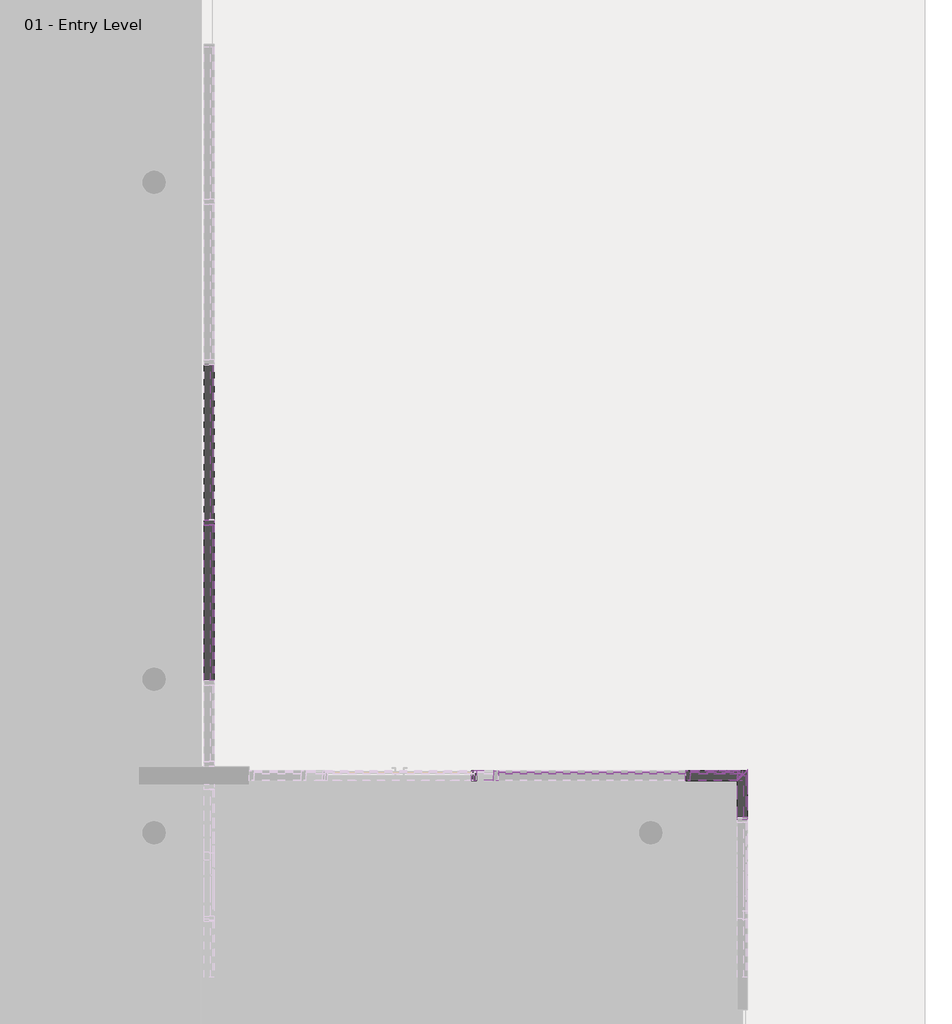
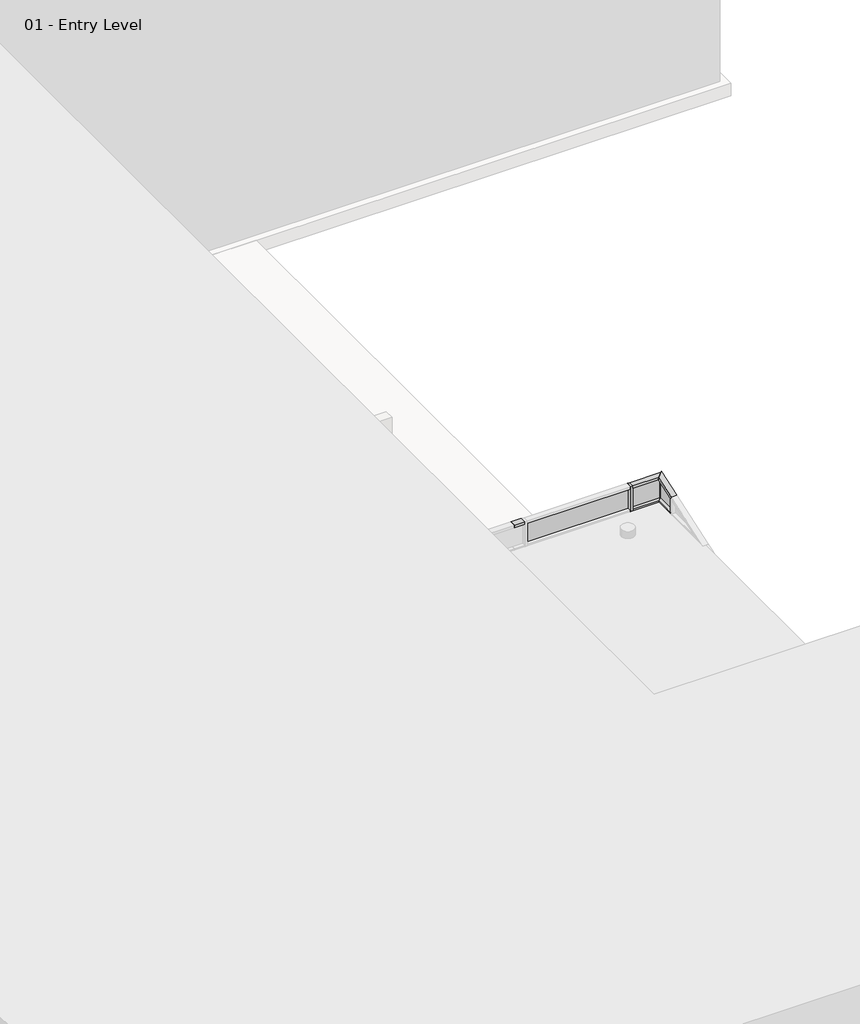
# One storey, part 17 of 34: 71 members, 54 plates.
"""IFC4 building model written with IfcOpenShell, lengths in millimetres."""

from ifc_helpers import new_model, si_unit, origin, place, context, project, spatial, transform, mapped, element, save
from components import member_2b49869a, member_391b434c, member_9e90ae50, member_6e77e263, member_b2bde9e6, member_b5354135, member_1e5b0a81, member_55448455, member_0dd9e943, member_29c8c3b8, member_f6b3c571, member_bb554449, member_5d67b9fc, member_2eb7018d, member_3f1e2ae8, member_80bb9b3a, member_75d1e245, member_83c59054, system_panel_glazed_1b9d6098, system_panel_glazed_70da479d, system_panel_glazed_1068a10c, system_panel_glazed_a178916c, system_panel_glazed_ee7bb25c, system_panel_glazed_b5016a42, system_panel_glazed_300f1d59, system_panel_glazed_afefc162, system_panel_glazed_fbdf944e, system_panel_glazed_78103c7b, system_panel_glazed_75890ef7

model = new_model("IFC4")

# Units and contexts
model_context = context("Model", 3, world=origin())
ifc_project = project(units=[si_unit("LENGTHUNIT", "METRE", prefix="MILLI")], contexts=[model_context])

# Site, building, storey
site = spatial("IfcSite", under=ifc_project)
building = spatial("IfcBuilding", under=site)
storey = spatial("IfcBuildingStorey", under=building, Name="01 - Entry Level", Elevation=0.0)

# Members
placement = place(None, origin())
member_shape = member_2b49869a(model_context)
element("IfcMember", 1, ObjectType="Rectangular Mullion : 2.5\" x 5\" rectangular", at=placement, inside=storey, context=model_context, shape_type="MappedRepresentation", body=[
    mapped(member_shape, transform((17184.0207476, 25752.35, 9753.6), x_axis=(0.0, 1.0, 0.0), y_axis=(1.0, 0.0, 0.0), z_axis=(0.0, 0.0, -1.0))),
])
member_2_shape = member_391b434c(model_context)
element("IfcMember", 2, ObjectType="Rectangular Mullion : 2.5\" x 5\" rectangular", at=placement, inside=storey, context=model_context, shape_type="MappedRepresentation", body=[
    mapped(member_2_shape, transform((17184.0207476, 25720.6, 10972.8), x_axis=(0.0, 0.0, 1.0), y_axis=(1.0, 0.0, 0.0), z_axis=(0.0, 1.0, 0.0))),
])
element("IfcMember", 3, ObjectType="Rectangular Mullion : 2.5\" x 5\" rectangular", at=placement, inside=storey, context=model_context, shape_type="MappedRepresentation", body=[
    mapped(member_2_shape, transform((17184.0207476, 27752.6, 10972.8), x_axis=(0.0, 0.0, 1.0), y_axis=(1.0, 0.0, 0.0), z_axis=(0.0, 1.0, 0.0))),
])
element("IfcMember", 4, ObjectType="Rectangular Mullion : 2.5\" x 5\" rectangular", at=placement, inside=storey, context=model_context, shape_type="MappedRepresentation", body=[
    mapped(member_2_shape, transform((17184.0207476, 25784.1, 0.0), x_axis=(0.0, 0.0, -1.0), y_axis=(1.0, 0.0, 0.0), z_axis=(0.0, -1.0, 0.0))),
])
element("IfcMember", 5, ObjectType="Rectangular Mullion : 2.5\" x 5\" rectangular", at=placement, inside=storey, context=model_context, shape_type="MappedRepresentation", body=[
    mapped(member_2_shape, transform((17184.0207476, 27816.1, 0.0), x_axis=(0.0, 0.0, -1.0), y_axis=(1.0, 0.0, 0.0), z_axis=(0.0, -1.0, 0.0))),
])
member_3_shape = member_9e90ae50(model_context)
element("IfcMember", 6, ObjectType="Rectangular Mullion : 2.5\" x 5\" rectangular", at=placement, inside=storey, context=model_context, shape_type="MappedRepresentation", body=[
    mapped(member_3_shape, transform((17184.0207476, 25720.6, 1219.2), x_axis=(0.0, 0.0, 1.0), y_axis=(1.0, 0.0, 0.0), z_axis=(0.0, 1.0, 0.0))),
])
element("IfcMember", 7, ObjectType="Rectangular Mullion : 2.5\" x 5\" rectangular", at=placement, inside=storey, context=model_context, shape_type="MappedRepresentation", body=[
    mapped(member_3_shape, transform((17184.0207476, 27752.6, 1219.2), x_axis=(0.0, 0.0, 1.0), y_axis=(1.0, 0.0, 0.0), z_axis=(0.0, 1.0, 0.0))),
])
element("IfcMember", 8, ObjectType="Rectangular Mullion : 2.5\" x 5\" rectangular", at=placement, inside=storey, context=model_context, shape_type="MappedRepresentation", body=[
    mapped(member_3_shape, transform((17184.0207476, 25720.6, 2438.4), x_axis=(0.0, 0.0, 1.0), y_axis=(1.0, 0.0, 0.0), z_axis=(0.0, 1.0, 0.0))),
])
element("IfcMember", 9, ObjectType="Rectangular Mullion : 2.5\" x 5\" rectangular", at=placement, inside=storey, context=model_context, shape_type="MappedRepresentation", body=[
    mapped(member_3_shape, transform((17184.0207476, 27752.6, 2438.4), x_axis=(0.0, 0.0, 1.0), y_axis=(1.0, 0.0, 0.0), z_axis=(0.0, 1.0, 0.0))),
])
element("IfcMember", 10, ObjectType="Rectangular Mullion : 2.5\" x 5\" rectangular", at=placement, inside=storey, context=model_context, shape_type="MappedRepresentation", body=[
    mapped(member_3_shape, transform((17184.0207476, 25720.6, 3657.6), x_axis=(0.0, 0.0, 1.0), y_axis=(1.0, 0.0, 0.0), z_axis=(0.0, 1.0, 0.0))),
])
element("IfcMember", 11, ObjectType="Rectangular Mullion : 2.5\" x 5\" rectangular", at=placement, inside=storey, context=model_context, shape_type="MappedRepresentation", body=[
    mapped(member_3_shape, transform((17184.0207476, 25720.6, 4876.8), x_axis=(0.0, 0.0, 1.0), y_axis=(1.0, 0.0, 0.0), z_axis=(0.0, 1.0, 0.0))),
])
element("IfcMember", 12, ObjectType="Rectangular Mullion : 2.5\" x 5\" rectangular", at=placement, inside=storey, context=model_context, shape_type="MappedRepresentation", body=[
    mapped(member_3_shape, transform((17184.0207476, 25720.6, 6096.0), x_axis=(0.0, 0.0, 1.0), y_axis=(1.0, 0.0, 0.0), z_axis=(0.0, 1.0, 0.0))),
])
element("IfcMember", 13, ObjectType="Rectangular Mullion : 2.5\" x 5\" rectangular", at=placement, inside=storey, context=model_context, shape_type="MappedRepresentation", body=[
    mapped(member_3_shape, transform((17184.0207476, 25720.6, 7315.2), x_axis=(0.0, 0.0, 1.0), y_axis=(1.0, 0.0, 0.0), z_axis=(0.0, 1.0, 0.0))),
])
element("IfcMember", 14, ObjectType="Rectangular Mullion : 2.5\" x 5\" rectangular", at=placement, inside=storey, context=model_context, shape_type="MappedRepresentation", body=[
    mapped(member_3_shape, transform((17184.0207476, 25720.6, 8534.4), x_axis=(0.0, 0.0, 1.0), y_axis=(1.0, 0.0, 0.0), z_axis=(0.0, 1.0, 0.0))),
])
element("IfcMember", 15, ObjectType="Rectangular Mullion : 2.5\" x 5\" rectangular", at=placement, inside=storey, context=model_context, shape_type="MappedRepresentation", body=[
    mapped(member_3_shape, transform((17184.0207476, 25720.6, 9753.6), x_axis=(0.0, 0.0, 1.0), y_axis=(1.0, 0.0, 0.0), z_axis=(0.0, 1.0, 0.0))),
])
element("IfcMember", 16, ObjectType="Rectangular Mullion : 2.5\" x 5\" rectangular", at=placement, inside=storey, context=model_context, shape_type="MappedRepresentation", body=[
    mapped(member_shape, transform((17184.0207476, 25752.35, 0.0), x_axis=(0.0, 1.0, 0.0), y_axis=(1.0, 0.0, 0.0), z_axis=(0.0, 0.0, -1.0))),
])
element("IfcMember", 17, ObjectType="Rectangular Mullion : 2.5\" x 5\" rectangular", at=placement, inside=storey, context=model_context, shape_type="MappedRepresentation", body=[
    mapped(member_shape, transform((17184.0207476, 25752.35, 1219.2), x_axis=(0.0, 1.0, 0.0), y_axis=(1.0, 0.0, 0.0), z_axis=(0.0, 0.0, -1.0))),
])
element("IfcMember", 18, ObjectType="Rectangular Mullion : 2.5\" x 5\" rectangular", at=placement, inside=storey, context=model_context, shape_type="MappedRepresentation", body=[
    mapped(member_shape, transform((17184.0207476, 25752.35, 2438.4), x_axis=(0.0, 1.0, 0.0), y_axis=(1.0, 0.0, 0.0), z_axis=(0.0, 0.0, -1.0))),
])
element("IfcMember", 19, ObjectType="Rectangular Mullion : 2.5\" x 5\" rectangular", at=placement, inside=storey, context=model_context, shape_type="MappedRepresentation", body=[
    mapped(member_shape, transform((17184.0207476, 25752.35, 3657.6), x_axis=(0.0, 1.0, 0.0), y_axis=(1.0, 0.0, 0.0), z_axis=(0.0, 0.0, -1.0))),
])
element("IfcMember", 20, ObjectType="Rectangular Mullion : 2.5\" x 5\" rectangular", at=placement, inside=storey, context=model_context, shape_type="MappedRepresentation", body=[
    mapped(member_shape, transform((17184.0207476, 25752.35, 4876.8), x_axis=(0.0, 1.0, 0.0), y_axis=(1.0, 0.0, 0.0), z_axis=(0.0, 0.0, -1.0))),
])
element("IfcMember", 21, ObjectType="Rectangular Mullion : 2.5\" x 5\" rectangular", at=placement, inside=storey, context=model_context, shape_type="MappedRepresentation", body=[
    mapped(member_shape, transform((17184.0207476, 25752.35, 6096.0), x_axis=(0.0, 1.0, 0.0), y_axis=(1.0, 0.0, 0.0), z_axis=(0.0, 0.0, -1.0))),
])
element("IfcMember", 22, ObjectType="Rectangular Mullion : 2.5\" x 5\" rectangular", at=placement, inside=storey, context=model_context, shape_type="MappedRepresentation", body=[
    mapped(member_shape, transform((17184.0207476, 25752.35, 7315.2), x_axis=(0.0, 1.0, 0.0), y_axis=(1.0, 0.0, 0.0), z_axis=(0.0, 0.0, -1.0))),
])
element("IfcMember", 23, ObjectType="Rectangular Mullion : 2.5\" x 5\" rectangular", at=placement, inside=storey, context=model_context, shape_type="MappedRepresentation", body=[
    mapped(member_shape, transform((17184.0207476, 25752.35, 8534.4), x_axis=(0.0, 1.0, 0.0), y_axis=(1.0, 0.0, 0.0), z_axis=(0.0, 0.0, -1.0))),
])
member_4_shape = member_6e77e263(model_context)
element("IfcMember", 24, ObjectType="Rectangular Mullion : 2.5\" x 5\" rectangular", at=placement, inside=storey, context=model_context, shape_type="MappedRepresentation", body=[
    mapped(member_4_shape, transform((23256.3615197, 22545.6, 0.0), x_axis=(-1.0, 0.0, 0.0), y_axis=(0.0, 1.0, 0.0), z_axis=(0.0, 0.0, -1.0))),
])
element("IfcMember", 25, ObjectType="Rectangular Mullion : 2.5\" x 5\" rectangular", at=placement, inside=storey, context=model_context, shape_type="MappedRepresentation", body=[
    mapped(member_4_shape, transform((23256.3615197, 22545.6, 609.6), x_axis=(-1.0, 0.0, 0.0), y_axis=(0.0, 1.0, 0.0), z_axis=(0.0, 0.0, -1.0))),
])
element("IfcMember", 26, ObjectType="Rectangular Mullion : 2.5\" x 5\" rectangular", at=placement, inside=storey, context=model_context, shape_type="MappedRepresentation", body=[
    mapped(member_4_shape, transform((23256.3615197, 22545.6, 1219.2), x_axis=(-1.0, 0.0, 0.0), y_axis=(0.0, 1.0, 0.0), z_axis=(0.0, 0.0, -1.0))),
])
element("IfcMember", 27, ObjectType="Rectangular Mullion : 2.5\" x 5\" rectangular", at=placement, inside=storey, context=model_context, shape_type="MappedRepresentation", body=[
    mapped(member_4_shape, transform((23256.3615197, 22545.6, 2438.4), x_axis=(-1.0, 0.0, 0.0), y_axis=(0.0, 1.0, 0.0), z_axis=(0.0, 0.0, -1.0))),
])
element("IfcMember", 28, ObjectType="Rectangular Mullion : 2.5\" x 5\" rectangular", at=placement, inside=storey, context=model_context, shape_type="MappedRepresentation", body=[
    mapped(member_4_shape, transform((23256.3615197, 22545.6, 3048.0), x_axis=(-1.0, 0.0, 0.0), y_axis=(0.0, 1.0, 0.0), z_axis=(0.0, 0.0, -1.0))),
])
element("IfcMember", 29, ObjectType="Rectangular Mullion : 2.5\" x 5\" rectangular", at=placement, inside=storey, context=model_context, shape_type="MappedRepresentation", body=[
    mapped(member_4_shape, transform((23256.3615197, 22545.6, 3657.6), x_axis=(-1.0, 0.0, 0.0), y_axis=(0.0, 1.0, 0.0), z_axis=(0.0, 0.0, -1.0))),
])
element("IfcMember", 30, ObjectType="Rectangular Mullion : 2.5\" x 5\" rectangular", at=placement, inside=storey, context=model_context, shape_type="MappedRepresentation", body=[
    mapped(member_4_shape, transform((23256.3615197, 22545.6, 4267.2), x_axis=(-1.0, 0.0, 0.0), y_axis=(0.0, 1.0, 0.0), z_axis=(0.0, 0.0, -1.0))),
])
element("IfcMember", 31, ObjectType="Rectangular Mullion : 2.5\" x 5\" rectangular", at=placement, inside=storey, context=model_context, shape_type="MappedRepresentation", body=[
    mapped(member_4_shape, transform((23256.3615197, 22545.6, 4876.8), x_axis=(-1.0, 0.0, 0.0), y_axis=(0.0, 1.0, 0.0), z_axis=(0.0, 0.0, -1.0))),
])
element("IfcMember", 32, ObjectType="Rectangular Mullion : 2.5\" x 5\" rectangular", at=placement, inside=storey, context=model_context, shape_type="MappedRepresentation", body=[
    mapped(member_4_shape, transform((23256.3615197, 22545.6, 5486.4), x_axis=(-1.0, 0.0, 0.0), y_axis=(0.0, 1.0, 0.0), z_axis=(0.0, 0.0, -1.0))),
])
element("IfcMember", 33, ObjectType="Rectangular Mullion : 2.5\" x 5\" rectangular", at=placement, inside=storey, context=model_context, shape_type="MappedRepresentation", body=[
    mapped(member_4_shape, transform((23256.3615197, 22545.6, 6096.0), x_axis=(-1.0, 0.0, 0.0), y_axis=(0.0, 1.0, 0.0), z_axis=(0.0, 0.0, -1.0))),
])
member_5_shape = member_b2bde9e6(model_context)
element("IfcMember", 34, ObjectType="Rectangular Mullion : 2.5\" x 5\" rectangular", at=placement, inside=storey, context=model_context, shape_type="MappedRepresentation", body=[
    mapped(member_5_shape, transform((23224.6115197, 22545.6, 0.0), x_axis=(0.0, 0.0, -1.0), y_axis=(0.0, 1.0, 0.0), z_axis=(1.0, 0.0, 0.0))),
])
member_6_shape = member_b5354135(model_context)
element("IfcMember", 35, ObjectType="Rectangular Mullion : 2.5\" x 5\" rectangular", at=placement, inside=storey, context=model_context, shape_type="MappedRepresentation", body=[
    mapped(member_6_shape, transform((23288.1115197, 22545.6, 1828.8), x_axis=(0.0, 0.0, 1.0), y_axis=(0.0, 1.0, 0.0), z_axis=(-1.0, 0.0, 0.0))),
])
element("IfcMember", 36, ObjectType="Rectangular Mullion : 2.5\" x 5\" rectangular", at=placement, inside=storey, context=model_context, shape_type="MappedRepresentation", body=[
    mapped(member_4_shape, transform((23256.3615197, 22545.6, 6705.6), x_axis=(-1.0, 0.0, 0.0), y_axis=(0.0, 1.0, 0.0), z_axis=(0.0, 0.0, -1.0))),
])
member_7_shape = member_1e5b0a81(model_context)
element("IfcMember", 37, ObjectType="Rectangular Mullion : 2.5\" x 5\" rectangular", at=placement, inside=storey, context=model_context, shape_type="MappedRepresentation", body=[
    mapped(member_7_shape, transform((23947.0115197, 22545.6, 0.0), x_axis=(0.0, 0.0, -1.0), y_axis=(0.0, 1.0, 0.0), z_axis=(1.0, 0.0, 0.0))),
])
member_8_shape = member_55448455(model_context)
element("IfcMember", 38, ObjectType="Rectangular Mullion : 2.5\" x 5\" rectangular", at=placement, inside=storey, context=model_context, shape_type="MappedRepresentation", body=[
    mapped(member_8_shape, transform((23947.0115197, 22018.55, 0.0), x_axis=(0.0, 0.0, -1.0), y_axis=(1.0, 0.0, 0.0), z_axis=(0.0, -1.0, 0.0))),
])
member_9_shape = member_0dd9e943(model_context)
element("IfcMember", 39, ObjectType="Rectangular Mullion : 2.5\" x 5\" rectangular", at=placement, inside=storey, context=model_context, shape_type="MappedRepresentation", body=[
    mapped(member_9_shape, transform((23288.1115197, 22545.6, 7315.2), x_axis=(0.0, 0.0, 1.0), y_axis=(0.0, 1.0, 0.0), z_axis=(-1.0, 0.0, 0.0))),
])
member_10_shape = member_29c8c3b8(model_context)
element("IfcMember", 40, ObjectType="Rectangular Mullion : 2.5\" x 5\" rectangular", at=placement, inside=storey, context=model_context, shape_type="MappedRepresentation", body=[
    mapped(member_10_shape, transform((23947.0115197, 22545.6, 7315.2), x_axis=(0.0, -0.31622776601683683, 0.9486832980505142), y_axis=(1.0, 0.0, 0.0), z_axis=(0.0, 0.9486832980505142, 0.31622776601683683))),
])
member_11_shape = member_f6b3c571(model_context)
element("IfcMember", 41, ObjectType="Rectangular Mullion : 2.5\" x 5\" rectangular", at=placement, inside=storey, context=model_context, shape_type="MappedRepresentation", body=[
    mapped(member_11_shape, transform((23288.1115197, 22545.6, 609.6), x_axis=(0.0, 0.0, 1.0), y_axis=(0.0, 1.0, 0.0), z_axis=(-1.0, 0.0, 0.0))),
])
element("IfcMember", 42, ObjectType="Rectangular Mullion : 2.5\" x 5\" rectangular", at=placement, inside=storey, context=model_context, shape_type="MappedRepresentation", body=[
    mapped(member_11_shape, transform((23288.1115197, 22545.6, 1219.2), x_axis=(0.0, 0.0, 1.0), y_axis=(0.0, 1.0, 0.0), z_axis=(-1.0, 0.0, 0.0))),
])
element("IfcMember", 43, ObjectType="Rectangular Mullion : 2.5\" x 5\" rectangular", at=placement, inside=storey, context=model_context, shape_type="MappedRepresentation", body=[
    mapped(member_11_shape, transform((23288.1115197, 22545.6, 2438.4), x_axis=(0.0, 0.0, 1.0), y_axis=(0.0, 1.0, 0.0), z_axis=(-1.0, 0.0, 0.0))),
])
element("IfcMember", 44, ObjectType="Rectangular Mullion : 2.5\" x 5\" rectangular", at=placement, inside=storey, context=model_context, shape_type="MappedRepresentation", body=[
    mapped(member_11_shape, transform((23288.1115197, 22545.6, 3048.0), x_axis=(0.0, 0.0, 1.0), y_axis=(0.0, 1.0, 0.0), z_axis=(-1.0, 0.0, 0.0))),
])
element("IfcMember", 45, ObjectType="Rectangular Mullion : 2.5\" x 5\" rectangular", at=placement, inside=storey, context=model_context, shape_type="MappedRepresentation", body=[
    mapped(member_11_shape, transform((23288.1115197, 22545.6, 3657.6), x_axis=(0.0, 0.0, 1.0), y_axis=(0.0, 1.0, 0.0), z_axis=(-1.0, 0.0, 0.0))),
])
element("IfcMember", 46, ObjectType="Rectangular Mullion : 2.5\" x 5\" rectangular", at=placement, inside=storey, context=model_context, shape_type="MappedRepresentation", body=[
    mapped(member_11_shape, transform((23288.1115197, 22545.6, 4267.2), x_axis=(0.0, 0.0, 1.0), y_axis=(0.0, 1.0, 0.0), z_axis=(-1.0, 0.0, 0.0))),
])
element("IfcMember", 47, ObjectType="Rectangular Mullion : 2.5\" x 5\" rectangular", at=placement, inside=storey, context=model_context, shape_type="MappedRepresentation", body=[
    mapped(member_11_shape, transform((23288.1115197, 22545.6, 4876.8), x_axis=(0.0, 0.0, 1.0), y_axis=(0.0, 1.0, 0.0), z_axis=(-1.0, 0.0, 0.0))),
])
element("IfcMember", 48, ObjectType="Rectangular Mullion : 2.5\" x 5\" rectangular", at=placement, inside=storey, context=model_context, shape_type="MappedRepresentation", body=[
    mapped(member_11_shape, transform((23288.1115197, 22545.6, 5486.4), x_axis=(0.0, 0.0, 1.0), y_axis=(0.0, 1.0, 0.0), z_axis=(-1.0, 0.0, 0.0))),
])
element("IfcMember", 49, ObjectType="Rectangular Mullion : 2.5\" x 5\" rectangular", at=placement, inside=storey, context=model_context, shape_type="MappedRepresentation", body=[
    mapped(member_11_shape, transform((23288.1115197, 22545.6, 6096.0), x_axis=(0.0, 0.0, 1.0), y_axis=(0.0, 1.0, 0.0), z_axis=(-1.0, 0.0, 0.0))),
])
element("IfcMember", 50, ObjectType="Rectangular Mullion : 2.5\" x 5\" rectangular", at=placement, inside=storey, context=model_context, shape_type="MappedRepresentation", body=[
    mapped(member_11_shape, transform((23288.1115197, 22545.6, 6705.6), x_axis=(0.0, 0.0, 1.0), y_axis=(0.0, 1.0, 0.0), z_axis=(-1.0, 0.0, 0.0))),
])
member_12_shape = member_bb554449(model_context)
element("IfcMember", 51, ObjectType="Rectangular Mullion : 2.5\" x 5\" rectangular", at=placement, inside=storey, context=model_context, shape_type="MappedRepresentation", body=[
    mapped(member_12_shape, transform((23947.0115197, 22545.6, 609.6), x_axis=(0.0, 0.0, 1.0), y_axis=(1.0, 0.0, 0.0), z_axis=(0.0, 1.0, 0.0))),
])
element("IfcMember", 52, ObjectType="Rectangular Mullion : 2.5\" x 5\" rectangular", at=placement, inside=storey, context=model_context, shape_type="MappedRepresentation", body=[
    mapped(member_12_shape, transform((23947.0115197, 22545.6, 1219.2), x_axis=(0.0, 0.0, 1.0), y_axis=(1.0, 0.0, 0.0), z_axis=(0.0, 1.0, 0.0))),
])
element("IfcMember", 53, ObjectType="Rectangular Mullion : 2.5\" x 5\" rectangular", at=placement, inside=storey, context=model_context, shape_type="MappedRepresentation", body=[
    mapped(member_12_shape, transform((23947.0115197, 22545.6, 3048.0), x_axis=(0.0, 0.0, 1.0), y_axis=(1.0, 0.0, 0.0), z_axis=(0.0, 1.0, 0.0))),
])
element("IfcMember", 54, ObjectType="Rectangular Mullion : 2.5\" x 5\" rectangular", at=placement, inside=storey, context=model_context, shape_type="MappedRepresentation", body=[
    mapped(member_12_shape, transform((23947.0115197, 22545.6, 3657.6), x_axis=(0.0, 0.0, 1.0), y_axis=(1.0, 0.0, 0.0), z_axis=(0.0, 1.0, 0.0))),
])
element("IfcMember", 55, ObjectType="Rectangular Mullion : 2.5\" x 5\" rectangular", at=placement, inside=storey, context=model_context, shape_type="MappedRepresentation", body=[
    mapped(member_12_shape, transform((23947.0115197, 22545.6, 4267.2), x_axis=(0.0, 0.0, 1.0), y_axis=(1.0, 0.0, 0.0), z_axis=(0.0, 1.0, 0.0))),
])
element("IfcMember", 56, ObjectType="Rectangular Mullion : 2.5\" x 5\" rectangular", at=placement, inside=storey, context=model_context, shape_type="MappedRepresentation", body=[
    mapped(member_12_shape, transform((23947.0115197, 22545.6, 4876.8), x_axis=(0.0, 0.0, 1.0), y_axis=(1.0, 0.0, 0.0), z_axis=(0.0, 1.0, 0.0))),
])
element("IfcMember", 57, ObjectType="Rectangular Mullion : 2.5\" x 5\" rectangular", at=placement, inside=storey, context=model_context, shape_type="MappedRepresentation", body=[
    mapped(member_12_shape, transform((23947.0115197, 22545.6, 5486.4), x_axis=(0.0, 0.0, 1.0), y_axis=(1.0, 0.0, 0.0), z_axis=(0.0, 1.0, 0.0))),
])
element("IfcMember", 58, ObjectType="Rectangular Mullion : 2.5\" x 5\" rectangular", at=placement, inside=storey, context=model_context, shape_type="MappedRepresentation", body=[
    mapped(member_12_shape, transform((23947.0115197, 22545.6, 6096.0), x_axis=(0.0, 0.0, 1.0), y_axis=(1.0, 0.0, 0.0), z_axis=(0.0, 1.0, 0.0))),
])
element("IfcMember", 59, ObjectType="Rectangular Mullion : 2.5\" x 5\" rectangular", at=placement, inside=storey, context=model_context, shape_type="MappedRepresentation", body=[
    mapped(member_12_shape, transform((23947.0115197, 22545.6, 6705.6), x_axis=(0.0, 0.0, 1.0), y_axis=(1.0, 0.0, 0.0), z_axis=(0.0, 1.0, 0.0))),
])
member_13_shape = member_5d67b9fc(model_context)
element("IfcMember", 60, ObjectType="Rectangular Mullion : 2.5\" x 5\" rectangular", at=placement, inside=storey, context=model_context, shape_type="MappedRepresentation", body=[
    mapped(member_13_shape, transform((23256.3615197, 22545.6, 2165.35), x_axis=(-1.0, 0.0, 0.0), y_axis=(0.0, 1.0, 0.0), z_axis=(0.0, 0.0, -1.0))),
])
element("IfcMember", 61, ObjectType="Rectangular Mullion : 2.5\" x 5\" rectangular", at=placement, inside=storey, context=model_context, shape_type="MappedRepresentation", body=[
    mapped(member_13_shape, transform((20817.9615197, 22545.6, 2165.35), x_axis=(-1.0, 0.0, 0.0), y_axis=(0.0, 1.0, 0.0), z_axis=(0.0, 0.0, -1.0))),
])
member_14_shape = member_2eb7018d(model_context)
element("IfcMember", 62, ObjectType="Rectangular Mullion : 2.5\" x 5\" rectangular", at=placement, inside=storey, context=model_context, shape_type="MappedRepresentation", body=[
    mapped(member_14_shape, transform((20544.9115197, 22545.6, 7315.2), x_axis=(0.0, 0.0, 1.0), y_axis=(0.0, 1.0, 0.0), z_axis=(-1.0, 0.0, 0.0))),
])
element("IfcMember", 63, ObjectType="Rectangular Mullion : 2.5\" x 5\" rectangular", at=placement, inside=storey, context=model_context, shape_type="MappedRepresentation", body=[
    mapped(member_4_shape, transform((20544.9115197, 22545.6, 609.6), x_axis=(-1.0, 0.0, 0.0), y_axis=(0.0, 1.0, 0.0), z_axis=(0.0, 0.0, -1.0))),
])
element("IfcMember", 64, ObjectType="Rectangular Mullion : 2.5\" x 5\" rectangular", at=placement, inside=storey, context=model_context, shape_type="MappedRepresentation", body=[
    mapped(member_4_shape, transform((20544.9115197, 22545.6, 1219.2), x_axis=(-1.0, 0.0, 0.0), y_axis=(0.0, 1.0, 0.0), z_axis=(0.0, 0.0, -1.0))),
])
element("IfcMember", 65, ObjectType="Rectangular Mullion : 2.5\" x 5\" rectangular", at=placement, inside=storey, context=model_context, shape_type="MappedRepresentation", body=[
    mapped(member_4_shape, transform((20544.9115197, 22545.6, 0.0), x_axis=(-1.0, 0.0, 0.0), y_axis=(0.0, 1.0, 0.0), z_axis=(0.0, 0.0, -1.0))),
])
member_15_shape = member_3f1e2ae8(model_context)
element("IfcMember", 66, ObjectType="Rectangular Mullion : 2.5\" x 5\" rectangular", at=placement, inside=storey, context=model_context, shape_type="MappedRepresentation", body=[
    mapped(member_15_shape, transform((23947.0115197, 22545.6, 1828.8), x_axis=(0.0, 0.0, 1.0), y_axis=(1.0, 0.0, 0.0), z_axis=(0.0, 1.0, 0.0))),
])
element("IfcMember", 67, ObjectType="Rectangular Mullion : 2.5\" x 5\" rectangular", at=placement, inside=storey, context=model_context, shape_type="MappedRepresentation", body=[
    mapped(member_15_shape, transform((23947.0115197, 22545.6, 2438.4), x_axis=(0.0, 0.0, 1.0), y_axis=(1.0, 0.0, 0.0), z_axis=(0.0, 1.0, 0.0))),
])
member_16_shape = member_80bb9b3a(model_context)
element("IfcMember", 68, ObjectType="Rectangular Mullion : 2.5\" x 5\" rectangular", at=placement, inside=storey, context=model_context, shape_type="MappedRepresentation", body=[
    mapped(member_16_shape, transform((23256.3615197, 22545.6, 1828.8), x_axis=(-1.0, 0.0, 0.0), y_axis=(0.0, 1.0, 0.0), z_axis=(0.0, 0.0, -1.0))),
])
element("IfcMember", 69, ObjectType="Rectangular Mullion : 2.5\" x 5\" rectangular", at=placement, inside=storey, context=model_context, shape_type="MappedRepresentation", body=[
    mapped(member_16_shape, transform((20544.9115197, 22545.6, 1828.8), x_axis=(-1.0, 0.0, 0.0), y_axis=(0.0, 1.0, 0.0), z_axis=(0.0, 0.0, -1.0))),
])
member_17_shape = member_75d1e245(model_context)
element("IfcMember", 70, ObjectType="Rectangular Mullion : 2.5\" x 5\" rectangular", at=placement, inside=storey, context=model_context, shape_type="MappedRepresentation", body=[
    mapped(member_17_shape, transform((20544.9115197, 22545.6, 2165.35), x_axis=(-1.0, 0.0, 0.0), y_axis=(0.0, 1.0, 0.0), z_axis=(0.0, 0.0, -1.0))),
])
member_18_shape = member_83c59054(model_context)
element("IfcMember", 71, ObjectType="Rectangular Mullion : 2.5\" x 5\" rectangular", at=placement, inside=storey, context=model_context, shape_type="MappedRepresentation", body=[
    mapped(member_18_shape, transform((23947.0115197, 22545.6, 2165.35), x_axis=(1.0, 0.0, 0.0), y_axis=(0.0, 1.0, 0.0), z_axis=(0.0, 0.0, 1.0))),
])

# Plates
system_panel_glazed_shape = system_panel_glazed_1b9d6098(model_context)
element("IfcPlate", 72, ObjectType="System Panel : Glazed", at=placement, inside=storey, context=model_context, shape_type="MappedRepresentation", body=[
    mapped(system_panel_glazed_shape, transform((17184.0207476, 24736.35, 63.5), x_axis=(0.0, 1.0, 0.0), y_axis=(-1.0, 0.0, 0.0), z_axis=(0.0, 0.0, 1.0))),
])
element("IfcPlate", 73, ObjectType="System Panel : Glazed", at=placement, inside=storey, context=model_context, shape_type="MappedRepresentation", body=[
    mapped(system_panel_glazed_shape, transform((17184.0207476, 26768.35, 63.5), x_axis=(0.0, 1.0, 0.0), y_axis=(-1.0, 0.0, 0.0), z_axis=(0.0, 0.0, 1.0))),
])
element("IfcPlate", 74, ObjectType="System Panel : Glazed", at=placement, inside=storey, context=model_context, shape_type="MappedRepresentation", body=[
    mapped(system_panel_glazed_shape, transform((17184.0207476, 24736.35, 9785.35), x_axis=(0.0, 1.0, 0.0), y_axis=(-1.0, 0.0, 0.0), z_axis=(0.0, 0.0, 1.0))),
])
element("IfcPlate", 75, ObjectType="System Panel : Glazed", at=placement, inside=storey, context=model_context, shape_type="MappedRepresentation", body=[
    mapped(system_panel_glazed_shape, transform((17184.0207476, 26768.35, 9785.35), x_axis=(0.0, 1.0, 0.0), y_axis=(-1.0, 0.0, 0.0), z_axis=(0.0, 0.0, 1.0))),
])
system_panel_glazed_2_shape = system_panel_glazed_70da479d(model_context)
element("IfcPlate", 76, ObjectType="System Panel : Glazed", at=placement, inside=storey, context=model_context, shape_type="MappedRepresentation", body=[
    mapped(system_panel_glazed_2_shape, transform((17184.0207476, 24736.35, 1250.95), x_axis=(0.0, 1.0, 0.0), y_axis=(-1.0, 0.0, 0.0), z_axis=(0.0, 0.0, 1.0))),
])
element("IfcPlate", 77, ObjectType="System Panel : Glazed", at=placement, inside=storey, context=model_context, shape_type="MappedRepresentation", body=[
    mapped(system_panel_glazed_2_shape, transform((17184.0207476, 26768.35, 1250.95), x_axis=(0.0, 1.0, 0.0), y_axis=(-1.0, 0.0, 0.0), z_axis=(0.0, 0.0, 1.0))),
])
element("IfcPlate", 78, ObjectType="System Panel : Glazed", at=placement, inside=storey, context=model_context, shape_type="MappedRepresentation", body=[
    mapped(system_panel_glazed_2_shape, transform((17184.0207476, 24736.35, 2470.15), x_axis=(0.0, 1.0, 0.0), y_axis=(-1.0, 0.0, 0.0), z_axis=(0.0, 0.0, 1.0))),
])
element("IfcPlate", 79, ObjectType="System Panel : Glazed", at=placement, inside=storey, context=model_context, shape_type="MappedRepresentation", body=[
    mapped(system_panel_glazed_2_shape, transform((17184.0207476, 26768.35, 2470.15), x_axis=(0.0, 1.0, 0.0), y_axis=(-1.0, 0.0, 0.0), z_axis=(0.0, 0.0, 1.0))),
])
element("IfcPlate", 80, ObjectType="System Panel : Glazed", at=placement, inside=storey, context=model_context, shape_type="MappedRepresentation", body=[
    mapped(system_panel_glazed_2_shape, transform((17184.0207476, 24736.35, 3689.35), x_axis=(0.0, 1.0, 0.0), y_axis=(-1.0, 0.0, 0.0), z_axis=(0.0, 0.0, 1.0))),
])
element("IfcPlate", 81, ObjectType="System Panel : Glazed", at=placement, inside=storey, context=model_context, shape_type="MappedRepresentation", body=[
    mapped(system_panel_glazed_2_shape, transform((17184.0207476, 26768.35, 3689.35), x_axis=(0.0, 1.0, 0.0), y_axis=(-1.0, 0.0, 0.0), z_axis=(0.0, 0.0, 1.0))),
])
element("IfcPlate", 82, ObjectType="System Panel : Glazed", at=placement, inside=storey, context=model_context, shape_type="MappedRepresentation", body=[
    mapped(system_panel_glazed_2_shape, transform((17184.0207476, 24736.35, 4908.55), x_axis=(0.0, 1.0, 0.0), y_axis=(-1.0, 0.0, 0.0), z_axis=(0.0, 0.0, 1.0))),
])
element("IfcPlate", 83, ObjectType="System Panel : Glazed", at=placement, inside=storey, context=model_context, shape_type="MappedRepresentation", body=[
    mapped(system_panel_glazed_2_shape, transform((17184.0207476, 26768.35, 4908.55), x_axis=(0.0, 1.0, 0.0), y_axis=(-1.0, 0.0, 0.0), z_axis=(0.0, 0.0, 1.0))),
])
element("IfcPlate", 84, ObjectType="System Panel : Glazed", at=placement, inside=storey, context=model_context, shape_type="MappedRepresentation", body=[
    mapped(system_panel_glazed_2_shape, transform((17184.0207476, 24736.35, 6127.75), x_axis=(0.0, 1.0, 0.0), y_axis=(-1.0, 0.0, 0.0), z_axis=(0.0, 0.0, 1.0))),
])
element("IfcPlate", 85, ObjectType="System Panel : Glazed", at=placement, inside=storey, context=model_context, shape_type="MappedRepresentation", body=[
    mapped(system_panel_glazed_2_shape, transform((17184.0207476, 26768.35, 6127.75), x_axis=(0.0, 1.0, 0.0), y_axis=(-1.0, 0.0, 0.0), z_axis=(0.0, 0.0, 1.0))),
])
element("IfcPlate", 86, ObjectType="System Panel : Glazed", at=placement, inside=storey, context=model_context, shape_type="MappedRepresentation", body=[
    mapped(system_panel_glazed_2_shape, transform((17184.0207476, 24736.35, 7346.95), x_axis=(0.0, 1.0, 0.0), y_axis=(-1.0, 0.0, 0.0), z_axis=(0.0, 0.0, 1.0))),
])
element("IfcPlate", 87, ObjectType="System Panel : Glazed", at=placement, inside=storey, context=model_context, shape_type="MappedRepresentation", body=[
    mapped(system_panel_glazed_2_shape, transform((17184.0207476, 26768.35, 7346.95), x_axis=(0.0, 1.0, 0.0), y_axis=(-1.0, 0.0, 0.0), z_axis=(0.0, 0.0, 1.0))),
])
element("IfcPlate", 88, ObjectType="System Panel : Glazed", at=placement, inside=storey, context=model_context, shape_type="MappedRepresentation", body=[
    mapped(system_panel_glazed_2_shape, transform((17184.0207476, 24736.35, 8566.15), x_axis=(0.0, 1.0, 0.0), y_axis=(-1.0, 0.0, 0.0), z_axis=(0.0, 0.0, 1.0))),
])
element("IfcPlate", 89, ObjectType="System Panel : Glazed", at=placement, inside=storey, context=model_context, shape_type="MappedRepresentation", body=[
    mapped(system_panel_glazed_2_shape, transform((17184.0207476, 26768.35, 8566.15), x_axis=(0.0, 1.0, 0.0), y_axis=(-1.0, 0.0, 0.0), z_axis=(0.0, 0.0, 1.0))),
])
system_panel_glazed_3_shape = system_panel_glazed_1068a10c(model_context)
element("IfcPlate", 90, ObjectType="System Panel : Glazed", at=placement, inside=storey, context=model_context, shape_type="MappedRepresentation", body=[
    mapped(system_panel_glazed_3_shape, transform((22037.1615197, 22545.6, 63.5), x_axis=(-1.0, 0.0, 0.0), y_axis=(0.0, -1.0, 0.0), z_axis=(0.0, 0.0, 1.0))),
])
element("IfcPlate", 91, ObjectType="System Panel : Glazed", at=placement, inside=storey, context=model_context, shape_type="MappedRepresentation", body=[
    mapped(system_panel_glazed_3_shape, transform((22037.1615197, 22545.6, 6737.35), x_axis=(-1.0, 0.0, 0.0), y_axis=(0.0, -1.0, 0.0), z_axis=(0.0, 0.0, 1.0))),
])
system_panel_glazed_4_shape = system_panel_glazed_a178916c(model_context)
element("IfcPlate", 92, ObjectType="System Panel : Glazed", at=placement, inside=storey, context=model_context, shape_type="MappedRepresentation", body=[
    mapped(system_panel_glazed_4_shape, transform((22037.1615197, 22545.6, 641.35), x_axis=(-1.0, 0.0, 0.0), y_axis=(0.0, -1.0, 0.0), z_axis=(0.0, 0.0, 1.0))),
])
element("IfcPlate", 93, ObjectType="System Panel : Glazed", at=placement, inside=storey, context=model_context, shape_type="MappedRepresentation", body=[
    mapped(system_panel_glazed_4_shape, transform((22037.1615197, 22545.6, 1250.95), x_axis=(-1.0, 0.0, 0.0), y_axis=(0.0, -1.0, 0.0), z_axis=(0.0, 0.0, 1.0))),
])
element("IfcPlate", 94, ObjectType="System Panel : Glazed", at=placement, inside=storey, context=model_context, shape_type="MappedRepresentation", body=[
    mapped(system_panel_glazed_4_shape, transform((22037.1615197, 22545.6, 2470.15), x_axis=(-1.0, 0.0, 0.0), y_axis=(0.0, -1.0, 0.0), z_axis=(0.0, 0.0, 1.0))),
])
element("IfcPlate", 95, ObjectType="System Panel : Glazed", at=placement, inside=storey, context=model_context, shape_type="MappedRepresentation", body=[
    mapped(system_panel_glazed_4_shape, transform((22037.1615197, 22545.6, 3079.75), x_axis=(-1.0, 0.0, 0.0), y_axis=(0.0, -1.0, 0.0), z_axis=(0.0, 0.0, 1.0))),
])
element("IfcPlate", 96, ObjectType="System Panel : Glazed", at=placement, inside=storey, context=model_context, shape_type="MappedRepresentation", body=[
    mapped(system_panel_glazed_4_shape, transform((22037.1615197, 22545.6, 3689.35), x_axis=(-1.0, 0.0, 0.0), y_axis=(0.0, -1.0, 0.0), z_axis=(0.0, 0.0, 1.0))),
])
element("IfcPlate", 97, ObjectType="System Panel : Glazed", at=placement, inside=storey, context=model_context, shape_type="MappedRepresentation", body=[
    mapped(system_panel_glazed_4_shape, transform((22037.1615197, 22545.6, 4298.95), x_axis=(-1.0, 0.0, 0.0), y_axis=(0.0, -1.0, 0.0), z_axis=(0.0, 0.0, 1.0))),
])
element("IfcPlate", 98, ObjectType="System Panel : Glazed", at=placement, inside=storey, context=model_context, shape_type="MappedRepresentation", body=[
    mapped(system_panel_glazed_4_shape, transform((22037.1615197, 22545.6, 4908.55), x_axis=(-1.0, 0.0, 0.0), y_axis=(0.0, -1.0, 0.0), z_axis=(0.0, 0.0, 1.0))),
])
element("IfcPlate", 99, ObjectType="System Panel : Glazed", at=placement, inside=storey, context=model_context, shape_type="MappedRepresentation", body=[
    mapped(system_panel_glazed_4_shape, transform((22037.1615197, 22545.6, 5518.15), x_axis=(-1.0, 0.0, 0.0), y_axis=(0.0, -1.0, 0.0), z_axis=(0.0, 0.0, 1.0))),
])
element("IfcPlate", 100, ObjectType="System Panel : Glazed", at=placement, inside=storey, context=model_context, shape_type="MappedRepresentation", body=[
    mapped(system_panel_glazed_4_shape, transform((22037.1615197, 22545.6, 6127.75), x_axis=(-1.0, 0.0, 0.0), y_axis=(0.0, -1.0, 0.0), z_axis=(0.0, 0.0, 1.0))),
])
system_panel_glazed_5_shape = system_panel_glazed_ee7bb25c(model_context)
element("IfcPlate", 101, ObjectType="System Panel : Glazed", at=placement, inside=storey, context=model_context, shape_type="MappedRepresentation", body=[
    mapped(system_panel_glazed_5_shape, transform((23617.5615197, 22545.6, 63.5), x_axis=(-1.0, 0.0, 0.0), y_axis=(0.0, -1.0, 0.0), z_axis=(0.0, 0.0, 1.0))),
])
element("IfcPlate", 102, ObjectType="System Panel : Glazed", at=placement, inside=storey, context=model_context, shape_type="MappedRepresentation", body=[
    mapped(system_panel_glazed_5_shape, transform((23617.5615197, 22545.6, 6737.35), x_axis=(-1.0, 0.0, 0.0), y_axis=(0.0, -1.0, 0.0), z_axis=(0.0, 0.0, 1.0))),
])
system_panel_glazed_6_shape = system_panel_glazed_b5016a42(model_context)
element("IfcPlate", 103, ObjectType="System Panel : Glazed", at=placement, inside=storey, context=model_context, shape_type="MappedRepresentation", body=[
    mapped(system_panel_glazed_6_shape, transform((23617.5615197, 22545.6, 641.35), x_axis=(-1.0, 0.0, 0.0), y_axis=(0.0, -1.0, 0.0), z_axis=(0.0, 0.0, 1.0))),
])
element("IfcPlate", 104, ObjectType="System Panel : Glazed", at=placement, inside=storey, context=model_context, shape_type="MappedRepresentation", body=[
    mapped(system_panel_glazed_6_shape, transform((23617.5615197, 22545.6, 1250.95), x_axis=(-1.0, 0.0, 0.0), y_axis=(0.0, -1.0, 0.0), z_axis=(0.0, 0.0, 1.0))),
])
element("IfcPlate", 105, ObjectType="System Panel : Glazed", at=placement, inside=storey, context=model_context, shape_type="MappedRepresentation", body=[
    mapped(system_panel_glazed_6_shape, transform((23617.5615197, 22545.6, 2470.15), x_axis=(-1.0, 0.0, 0.0), y_axis=(0.0, -1.0, 0.0), z_axis=(0.0, 0.0, 1.0))),
])
element("IfcPlate", 106, ObjectType="System Panel : Glazed", at=placement, inside=storey, context=model_context, shape_type="MappedRepresentation", body=[
    mapped(system_panel_glazed_6_shape, transform((23617.5615197, 22545.6, 3079.75), x_axis=(-1.0, 0.0, 0.0), y_axis=(0.0, -1.0, 0.0), z_axis=(0.0, 0.0, 1.0))),
])
element("IfcPlate", 107, ObjectType="System Panel : Glazed", at=placement, inside=storey, context=model_context, shape_type="MappedRepresentation", body=[
    mapped(system_panel_glazed_6_shape, transform((23617.5615197, 22545.6, 3689.35), x_axis=(-1.0, 0.0, 0.0), y_axis=(0.0, -1.0, 0.0), z_axis=(0.0, 0.0, 1.0))),
])
element("IfcPlate", 108, ObjectType="System Panel : Glazed", at=placement, inside=storey, context=model_context, shape_type="MappedRepresentation", body=[
    mapped(system_panel_glazed_6_shape, transform((23617.5615197, 22545.6, 4298.95), x_axis=(-1.0, 0.0, 0.0), y_axis=(0.0, -1.0, 0.0), z_axis=(0.0, 0.0, 1.0))),
])
element("IfcPlate", 109, ObjectType="System Panel : Glazed", at=placement, inside=storey, context=model_context, shape_type="MappedRepresentation", body=[
    mapped(system_panel_glazed_6_shape, transform((23617.5615197, 22545.6, 4908.55), x_axis=(-1.0, 0.0, 0.0), y_axis=(0.0, -1.0, 0.0), z_axis=(0.0, 0.0, 1.0))),
])
element("IfcPlate", 110, ObjectType="System Panel : Glazed", at=placement, inside=storey, context=model_context, shape_type="MappedRepresentation", body=[
    mapped(system_panel_glazed_6_shape, transform((23617.5615197, 22545.6, 5518.15), x_axis=(-1.0, 0.0, 0.0), y_axis=(0.0, -1.0, 0.0), z_axis=(0.0, 0.0, 1.0))),
])
element("IfcPlate", 111, ObjectType="System Panel : Glazed", at=placement, inside=storey, context=model_context, shape_type="MappedRepresentation", body=[
    mapped(system_panel_glazed_6_shape, transform((23617.5615197, 22545.6, 6127.75), x_axis=(-1.0, 0.0, 0.0), y_axis=(0.0, -1.0, 0.0), z_axis=(0.0, 0.0, 1.0))),
])
system_panel_glazed_7_shape = system_panel_glazed_300f1d59(model_context)
element("IfcPlate", 112, ObjectType="System Panel : Glazed", at=placement, inside=storey, context=model_context, shape_type="MappedRepresentation", body=[
    mapped(system_panel_glazed_7_shape, transform((23947.0115197, 22282.075, 63.5), x_axis=(0.0, 1.0, 0.0), y_axis=(-1.0, 0.0, 0.0), z_axis=(0.0, 0.0, 1.0))),
])
system_panel_glazed_8_shape = system_panel_glazed_afefc162(model_context)
element("IfcPlate", 113, ObjectType="System Panel : Glazed", at=placement, inside=storey, context=model_context, shape_type="MappedRepresentation", body=[
    mapped(system_panel_glazed_8_shape, transform((23947.0115197, 22282.075, 641.35), x_axis=(0.0, 1.0, 0.0), y_axis=(-1.0, 0.0, 0.0), z_axis=(0.0, 0.0, 1.0))),
])
element("IfcPlate", 114, ObjectType="System Panel : Glazed", at=placement, inside=storey, context=model_context, shape_type="MappedRepresentation", body=[
    mapped(system_panel_glazed_8_shape, transform((23947.0115197, 22282.075, 1250.95), x_axis=(0.0, 1.0, 0.0), y_axis=(-1.0, 0.0, 0.0), z_axis=(0.0, 0.0, 1.0))),
])
element("IfcPlate", 115, ObjectType="System Panel : Glazed", at=placement, inside=storey, context=model_context, shape_type="MappedRepresentation", body=[
    mapped(system_panel_glazed_8_shape, transform((23947.0115197, 22282.075, 1860.55), x_axis=(0.0, 1.0, 0.0), y_axis=(-1.0, 0.0, 0.0), z_axis=(0.0, 0.0, 1.0))),
])
element("IfcPlate", 116, ObjectType="System Panel : Glazed", at=placement, inside=storey, context=model_context, shape_type="MappedRepresentation", body=[
    mapped(system_panel_glazed_8_shape, transform((23947.0115197, 22282.075, 2470.15), x_axis=(0.0, 1.0, 0.0), y_axis=(-1.0, 0.0, 0.0), z_axis=(0.0, 0.0, 1.0))),
])
element("IfcPlate", 117, ObjectType="System Panel : Glazed", at=placement, inside=storey, context=model_context, shape_type="MappedRepresentation", body=[
    mapped(system_panel_glazed_8_shape, transform((23947.0115197, 22282.075, 3079.75), x_axis=(0.0, 1.0, 0.0), y_axis=(-1.0, 0.0, 0.0), z_axis=(0.0, 0.0, 1.0))),
])
element("IfcPlate", 118, ObjectType="System Panel : Glazed", at=placement, inside=storey, context=model_context, shape_type="MappedRepresentation", body=[
    mapped(system_panel_glazed_8_shape, transform((23947.0115197, 22282.075, 3689.35), x_axis=(0.0, 1.0, 0.0), y_axis=(-1.0, 0.0, 0.0), z_axis=(0.0, 0.0, 1.0))),
])
element("IfcPlate", 119, ObjectType="System Panel : Glazed", at=placement, inside=storey, context=model_context, shape_type="MappedRepresentation", body=[
    mapped(system_panel_glazed_8_shape, transform((23947.0115197, 22282.075, 4298.95), x_axis=(0.0, 1.0, 0.0), y_axis=(-1.0, 0.0, 0.0), z_axis=(0.0, 0.0, 1.0))),
])
element("IfcPlate", 120, ObjectType="System Panel : Glazed", at=placement, inside=storey, context=model_context, shape_type="MappedRepresentation", body=[
    mapped(system_panel_glazed_8_shape, transform((23947.0115197, 22282.075, 4908.55), x_axis=(0.0, 1.0, 0.0), y_axis=(-1.0, 0.0, 0.0), z_axis=(0.0, 0.0, 1.0))),
])
element("IfcPlate", 121, ObjectType="System Panel : Glazed", at=placement, inside=storey, context=model_context, shape_type="MappedRepresentation", body=[
    mapped(system_panel_glazed_8_shape, transform((23947.0115197, 22282.075, 5518.15), x_axis=(0.0, 1.0, 0.0), y_axis=(-1.0, 0.0, 0.0), z_axis=(0.0, 0.0, 1.0))),
])
element("IfcPlate", 122, ObjectType="System Panel : Glazed", at=placement, inside=storey, context=model_context, shape_type="MappedRepresentation", body=[
    mapped(system_panel_glazed_8_shape, transform((23947.0115197, 22282.075, 6127.75), x_axis=(0.0, 1.0, 0.0), y_axis=(-1.0, 0.0, 0.0), z_axis=(0.0, 0.0, 1.0))),
])
system_panel_glazed_9_shape = system_panel_glazed_fbdf944e(model_context)
element("IfcPlate", 123, ObjectType="System Panel : Glazed", at=placement, inside=storey, context=model_context, shape_type="MappedRepresentation", body=[
    mapped(system_panel_glazed_9_shape, transform((23947.0115197, 22282.075, 6737.35), x_axis=(0.0, 1.0, 0.0), y_axis=(-1.0, 0.0, 0.0), z_axis=(0.0, 0.0, 1.0))),
])
system_panel_glazed_10_shape = system_panel_glazed_78103c7b(model_context)
element("IfcPlate", 124, ObjectType="System Panel : Glazed", at=placement, inside=storey, context=model_context, shape_type="MappedRepresentation", body=[
    mapped(system_panel_glazed_10_shape, transform((23617.5615197, 22545.6, 1860.55), x_axis=(-1.0, 0.0, 0.0), y_axis=(0.0, -1.0, 0.0), z_axis=(0.0, 0.0, 1.0))),
])
system_panel_glazed_11_shape = system_panel_glazed_75890ef7(model_context)
element("IfcPlate", 125, ObjectType="System Panel : Glazed", at=placement, inside=storey, context=model_context, shape_type="MappedRepresentation", body=[
    mapped(system_panel_glazed_11_shape, transform((22037.1615197, 22545.6, 1860.55), x_axis=(-1.0, 0.0, 0.0), y_axis=(0.0, -1.0, 0.0), z_axis=(0.0, 0.0, 1.0))),
])

save(model, "model.ifc")
